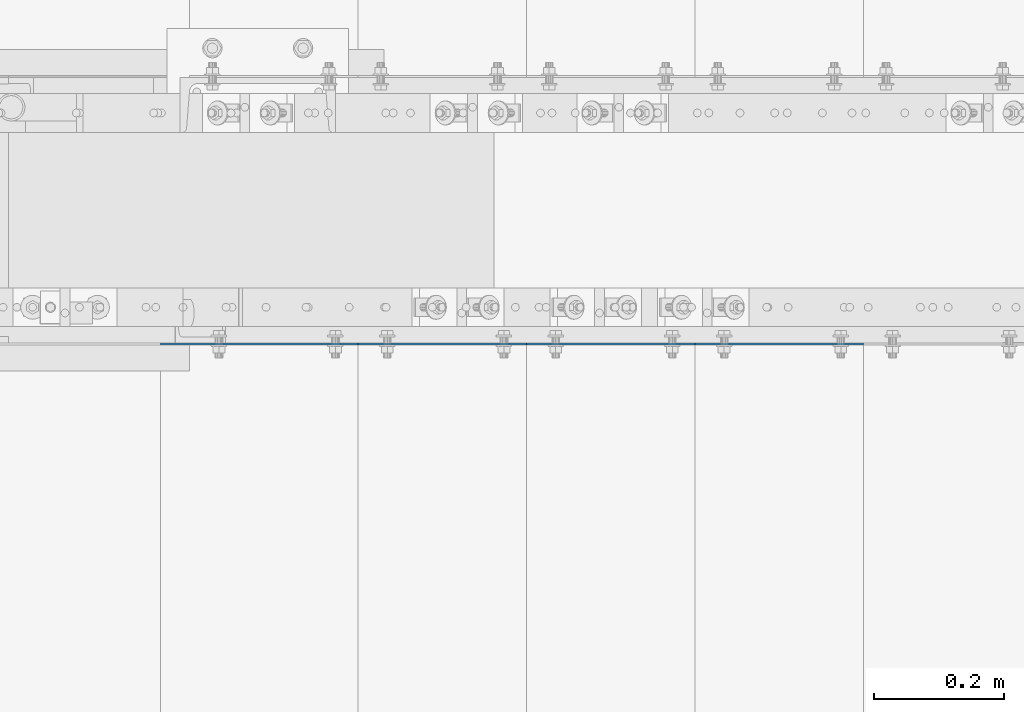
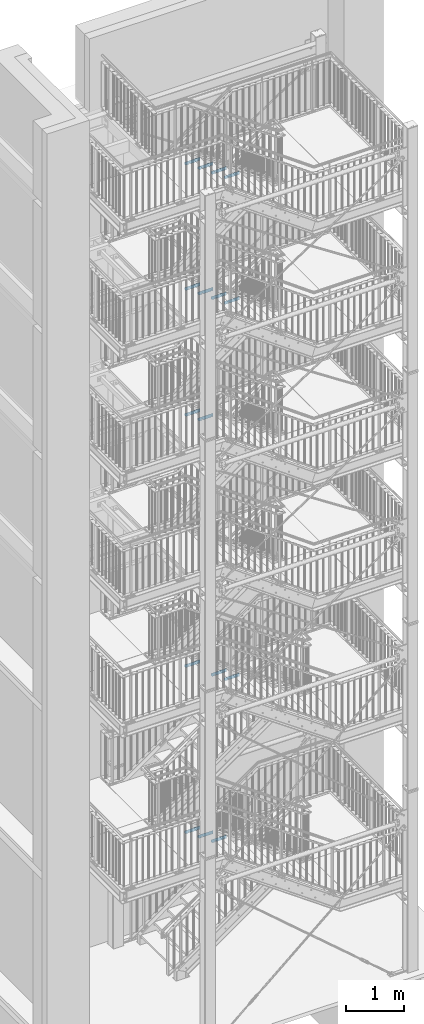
# One storey, part 174 of 831: 16 plates, 32 openings.
"""IFC2X3 building model written with IfcOpenShell, lengths in millimetres."""

from ifc_helpers import new_model, entity, si_unit, converted_unit, point, frame, frame_2d, origin, origin_with_axes, origin_2d_with_axis, place, context, project, spatial, polyline, circle_curve, line_curve, trimmed, segment, composite_curve, circle, outline, extrude, material, layer, layer_set, element, save


model = new_model("IFC2X3")

# Units and contexts
model_context = context("Model", 3, precision=1e-09, world=origin_with_axes())
ifc_project = project(units=[si_unit("LENGTHUNIT", "METRE", prefix="MILLI"), si_unit("AREAUNIT", "SQUARE_METRE"), si_unit("VOLUMEUNIT", "CUBIC_METRE"), converted_unit("PLANEANGLEUNIT", "DEGREE", entity("IfcPlaneAngleMeasure", 0.01745329), si_unit("PLANEANGLEUNIT", "RADIAN"), dimensions=[0, 0, 0, 0, 0, 0, 0])], contexts=[model_context])

# Site, building, storey
site_placement = place(None, origin_with_axes())
site = spatial("IfcSite", under=ifc_project, at=site_placement, Name="Site", CompositionType="ELEMENT")
building_placement = place(site_placement, origin_with_axes())
building = spatial("IfcBuilding", under=site, at=building_placement, Name="Struktur 1", CompositionType="ELEMENT")
storey_placement = place(building_placement, origin_with_axes())
storey = spatial("IfcBuildingStorey", under=building, at=storey_placement, Name="Default Storey", CompositionType="ELEMENT", Elevation=0.0)

# Plate, openings
ifc_material = material(Name="S235JR")
ifc_layer = layer(ifc_material, 3.0)
ifc_layer_set = layer_set([ifc_layer], Name="S235JR")
plate_1_placement = place(None, frame((5756.713402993, 5733.736971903, 12243.7142858), z_axis=(0.0, 1.0, 0.0), x_axis=(0.0, 0.0, -1.0)))
plate_1 = element("IfcPlate", 1, at=plate_1_placement, inside=storey, material=ifc_layer_set, Name="Grate_Step#31", ObjectType="Grate_Step#31", context=model_context, shape_type="SweptSolid", body=[
    extrude(outline(polyline([(0.0, 0.0), (70.0, 0.0), (70.0, 275.0), (40.0, 305.0), (0.0, 305.0), (0.0, 0.0)])), origin_with_axes(), (0.0, 0.0, 1.0), 3.0),
])
opening_1_placement = place(plate_1_placement, frame((55.0, 35.0, -0.5), z_axis=(0.0, 0.0, 1.0), x_axis=(0.0, 1.0, 0.0)))
element("IfcOpeningElement", 2, at=opening_1_placement, cuts=plate_1, ObjectType="Opening", context=model_context, shape_type="SweptSolid", body=[
    extrude(circle(Radius=7.001, at=origin_2d_with_axis()), origin(), (0.0, 0.0, 1.0), 4.0),
])
opening_2_placement = place(plate_1_placement, frame((55.0, 215.0, -0.5), z_axis=(0.0, 0.0, 1.0), x_axis=(0.0, 1.0, 0.0)))
element("IfcOpeningElement", 3, at=opening_2_placement, cuts=plate_1, ObjectType="Opening", context=model_context, shape_type="SweptSolid", body=[
    extrude(outline(composite_curve([segment(trimmed(line_curve((-9.5, -7.001), (1.0, 0.0), 19.0), [point((-9.5, -7.001))], [point((9.5, -7.001))], True, "CARTESIAN"), True, "CONTINUOUS"), segment(trimmed(circle_curve(frame_2d((9.5, 0.0), x_axis=(1.0, 0.0)), 7.001), [point((9.5, -7.001))], [point((9.5, 7.001))], True, "CARTESIAN"), True, "CONTINUOUS"), segment(trimmed(line_curve((9.5, 7.001), (-1.0, 0.0), 19.0), [point((9.5, 7.001))], [point((-9.5, 7.001))], True, "CARTESIAN"), True, "CONTINUOUS"), segment(trimmed(circle_curve(frame_2d((-9.5, 0.0), x_axis=(1.0, 0.0)), 7.001), [point((-9.5, 7.001))], [point((-9.5, -7.001))], True, "CARTESIAN"), True, "CONTINUOUS")], self_intersect=False)), origin(), (0.0, 0.0, 1.0), 4.0),
])

plate_2_placement = place(None, frame((5496.713402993, 5733.736971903, 12431.3571429), z_axis=(0.0, 1.0, 0.0), x_axis=(0.0, 0.0, -1.0)))
plate_2 = element("IfcPlate", 4, at=plate_2_placement, inside=storey, material=ifc_layer_set, Name="Grate_Step#38", ObjectType="Grate_Step#38", context=model_context, shape_type="SweptSolid", body=[
    extrude(outline(polyline([(0.0, 0.0), (70.0, 0.0), (70.0, 275.0), (40.0, 305.0), (0.0, 305.0), (0.0, 0.0)])), origin_with_axes(), (0.0, 0.0, 1.0), 3.0),
])
opening_3_placement = place(plate_2_placement, frame((55.0, 35.0, -0.5), z_axis=(0.0, 0.0, 1.0), x_axis=(0.0, 1.0, 0.0)))
element("IfcOpeningElement", 5, at=opening_3_placement, cuts=plate_2, ObjectType="Opening", context=model_context, shape_type="SweptSolid", body=[
    extrude(circle(Radius=7.001, at=origin_2d_with_axis()), origin(), (0.0, 0.0, 1.0), 4.0),
])
opening_4_placement = place(plate_2_placement, frame((55.0, 215.0, -0.5), z_axis=(0.0, 0.0, 1.0), x_axis=(0.0, 1.0, 0.0)))
element("IfcOpeningElement", 6, at=opening_4_placement, cuts=plate_2, ObjectType="Opening", context=model_context, shape_type="SweptSolid", body=[
    extrude(outline(composite_curve([segment(trimmed(line_curve((-9.5, -7.001), (1.0, 0.0), 19.0), [point((-9.5, -7.001))], [point((9.5, -7.001))], True, "CARTESIAN"), True, "CONTINUOUS"), segment(trimmed(circle_curve(frame_2d((9.5, 0.0), x_axis=(1.0, 0.0)), 7.001), [point((9.5, -7.001))], [point((9.5, 7.001))], True, "CARTESIAN"), True, "CONTINUOUS"), segment(trimmed(line_curve((9.5, 7.001), (-1.0, 0.0), 19.0), [point((9.5, 7.001))], [point((-9.5, 7.001))], True, "CARTESIAN"), True, "CONTINUOUS"), segment(trimmed(circle_curve(frame_2d((-9.5, 0.0), x_axis=(1.0, 0.0)), 7.001), [point((-9.5, 7.001))], [point((-9.5, -7.001))], True, "CARTESIAN"), True, "CONTINUOUS")], self_intersect=False)), origin(), (0.0, 0.0, 1.0), 4.0),
])

plate_3_placement = place(None, frame((6276.713402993, 5733.736971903, 14501.1428572), z_axis=(0.0, 1.0, 0.0), x_axis=(0.0, 0.0, -1.0)))
plate_3 = element("IfcPlate", 7, at=plate_3_placement, inside=storey, material=ifc_layer_set, Name="Grate_Step#17", ObjectType="Grate_Step#17", context=model_context, shape_type="SweptSolid", body=[
    extrude(outline(polyline([(0.0, 0.0), (70.0, 0.0), (70.0, 275.0), (40.0, 305.0), (0.0, 305.0), (0.0, 0.0)])), origin_with_axes(), (0.0, 0.0, 1.0), 3.0),
])
opening_5_placement = place(plate_3_placement, frame((55.0, 215.0, -0.5), z_axis=(0.0, 0.0, 1.0), x_axis=(0.0, 1.0, 0.0)))
element("IfcOpeningElement", 8, at=opening_5_placement, cuts=plate_3, ObjectType="Opening", context=model_context, shape_type="SweptSolid", body=[
    extrude(outline(composite_curve([segment(trimmed(line_curve((-9.5, -7.001), (1.0, 0.0), 19.0), [point((-9.5, -7.001))], [point((9.5, -7.001))], True, "CARTESIAN"), True, "CONTINUOUS"), segment(trimmed(circle_curve(frame_2d((9.5, 0.0), x_axis=(1.0, 0.0)), 7.001), [point((9.5, -7.001))], [point((9.5, 7.001))], True, "CARTESIAN"), True, "CONTINUOUS"), segment(trimmed(line_curve((9.5, 7.001), (-1.0, 0.0), 19.0), [point((9.5, 7.001))], [point((-9.5, 7.001))], True, "CARTESIAN"), True, "CONTINUOUS"), segment(trimmed(circle_curve(frame_2d((-9.5, 0.0), x_axis=(1.0, 0.0)), 7.001), [point((-9.5, 7.001))], [point((-9.5, -7.001))], True, "CARTESIAN"), True, "CONTINUOUS")], self_intersect=False)), origin(), (0.0, 0.0, 1.0), 4.0),
])
opening_6_placement = place(plate_3_placement, frame((55.0, 35.0, -0.5), z_axis=(0.0, 0.0, 1.0), x_axis=(0.0, 1.0, 0.0)))
element("IfcOpeningElement", 9, at=opening_6_placement, cuts=plate_3, ObjectType="Opening", context=model_context, shape_type="SweptSolid", body=[
    extrude(circle(Radius=7.001, at=origin_2d_with_axis()), origin(), (0.0, 0.0, 1.0), 4.0),
])

plate_4_placement = place(None, frame((6016.713402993, 5733.736971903, 14689.3571429), z_axis=(0.0, 1.0, 0.0), x_axis=(0.0, 0.0, -1.0)))
plate_4 = element("IfcPlate", 10, at=plate_4_placement, inside=storey, material=ifc_layer_set, Name="Grate_Step#24", ObjectType="Grate_Step#24", context=model_context, shape_type="SweptSolid", body=[
    extrude(outline(polyline([(0.0, 0.0), (70.0, 0.0), (70.0, 275.0), (40.0, 305.0), (0.0, 305.0), (0.0, 0.0)])), origin_with_axes(), (0.0, 0.0, 1.0), 3.0),
])
opening_7_placement = place(plate_4_placement, frame((55.0, 35.0, -0.5), z_axis=(0.0, 0.0, 1.0), x_axis=(0.0, 1.0, 0.0)))
element("IfcOpeningElement", 11, at=opening_7_placement, cuts=plate_4, ObjectType="Opening", context=model_context, shape_type="SweptSolid", body=[
    extrude(circle(Radius=7.001, at=origin_2d_with_axis()), origin(), (0.0, 0.0, 1.0), 4.0),
])
opening_8_placement = place(plate_4_placement, frame((55.0, 215.0, -0.5), z_axis=(0.0, 0.0, 1.0), x_axis=(0.0, 1.0, 0.0)))
element("IfcOpeningElement", 12, at=opening_8_placement, cuts=plate_4, ObjectType="Opening", context=model_context, shape_type="SweptSolid", body=[
    extrude(outline(composite_curve([segment(trimmed(line_curve((-9.5, -7.001), (1.0, 0.0), 19.0), [point((-9.5, -7.001))], [point((9.5, -7.001))], True, "CARTESIAN"), True, "CONTINUOUS"), segment(trimmed(circle_curve(frame_2d((9.5, 0.0), x_axis=(1.0, 0.0)), 7.001), [point((9.5, -7.001))], [point((9.5, 7.001))], True, "CARTESIAN"), True, "CONTINUOUS"), segment(trimmed(line_curve((9.5, 7.001), (-1.0, 0.0), 19.0), [point((9.5, 7.001))], [point((-9.5, 7.001))], True, "CARTESIAN"), True, "CONTINUOUS"), segment(trimmed(circle_curve(frame_2d((-9.5, 0.0), x_axis=(1.0, 0.0)), 7.001), [point((-9.5, 7.001))], [point((-9.5, -7.001))], True, "CARTESIAN"), True, "CONTINUOUS")], self_intersect=False)), origin(), (0.0, 0.0, 1.0), 4.0),
])

plate_5_placement = place(None, frame((5756.713402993, 5733.736971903, 14877.5714286), z_axis=(0.0, 1.0, 0.0), x_axis=(0.0, 0.0, -1.0)))
plate_5 = element("IfcPlate", 13, at=plate_5_placement, inside=storey, material=ifc_layer_set, Name="Grate_Step#31", ObjectType="Grate_Step#31", context=model_context, shape_type="SweptSolid", body=[
    extrude(outline(polyline([(0.0, 0.0), (70.0, 0.0), (70.0, 275.0), (40.0, 305.0), (0.0, 305.0), (0.0, 0.0)])), origin_with_axes(), (0.0, 0.0, 1.0), 3.0),
])
opening_9_placement = place(plate_5_placement, frame((55.0, 35.0, -0.5), z_axis=(0.0, 0.0, 1.0), x_axis=(0.0, 1.0, 0.0)))
element("IfcOpeningElement", 14, at=opening_9_placement, cuts=plate_5, ObjectType="Opening", context=model_context, shape_type="SweptSolid", body=[
    extrude(circle(Radius=7.001, at=origin_2d_with_axis()), origin(), (0.0, 0.0, 1.0), 4.0),
])
opening_10_placement = place(plate_5_placement, frame((55.0, 215.0, -0.5), z_axis=(0.0, 0.0, 1.0), x_axis=(0.0, 1.0, 0.0)))
element("IfcOpeningElement", 15, at=opening_10_placement, cuts=plate_5, ObjectType="Opening", context=model_context, shape_type="SweptSolid", body=[
    extrude(outline(composite_curve([segment(trimmed(line_curve((-9.5, -7.001), (1.0, 0.0), 19.0), [point((-9.5, -7.001))], [point((9.5, -7.001))], True, "CARTESIAN"), True, "CONTINUOUS"), segment(trimmed(circle_curve(frame_2d((9.5, 0.0), x_axis=(1.0, 0.0)), 7.001), [point((9.5, -7.001))], [point((9.5, 7.001))], True, "CARTESIAN"), True, "CONTINUOUS"), segment(trimmed(line_curve((9.5, 7.001), (-1.0, 0.0), 19.0), [point((9.5, 7.001))], [point((-9.5, 7.001))], True, "CARTESIAN"), True, "CONTINUOUS"), segment(trimmed(circle_curve(frame_2d((-9.5, 0.0), x_axis=(1.0, 0.0)), 7.001), [point((-9.5, 7.001))], [point((-9.5, -7.001))], True, "CARTESIAN"), True, "CONTINUOUS")], self_intersect=False)), origin(), (0.0, 0.0, 1.0), 4.0),
])

plate_6_placement = place(None, frame((5496.713402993, 5733.736971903, 15065.7857143), z_axis=(0.0, 1.0, 0.0), x_axis=(0.0, 0.0, -1.0)))
plate_6 = element("IfcPlate", 16, at=plate_6_placement, inside=storey, material=ifc_layer_set, Name="Grate_Step#38", ObjectType="Grate_Step#38", context=model_context, shape_type="SweptSolid", body=[
    extrude(outline(polyline([(0.0, 0.0), (70.0, 0.0), (70.0, 275.0), (40.0, 305.0), (0.0, 305.0), (0.0, 0.0)])), origin_with_axes(), (0.0, 0.0, 1.0), 3.0),
])
opening_11_placement = place(plate_6_placement, frame((55.0, 215.0, -0.5), z_axis=(0.0, 0.0, 1.0), x_axis=(0.0, 1.0, 0.0)))
element("IfcOpeningElement", 17, at=opening_11_placement, cuts=plate_6, ObjectType="Opening", context=model_context, shape_type="SweptSolid", body=[
    extrude(outline(composite_curve([segment(trimmed(line_curve((-9.5, -7.001), (1.0, 0.0), 19.0), [point((-9.5, -7.001))], [point((9.5, -7.001))], True, "CARTESIAN"), True, "CONTINUOUS"), segment(trimmed(circle_curve(frame_2d((9.5, 0.0), x_axis=(1.0, 0.0)), 7.001), [point((9.5, -7.001))], [point((9.5, 7.001))], True, "CARTESIAN"), True, "CONTINUOUS"), segment(trimmed(line_curve((9.5, 7.001), (-1.0, 0.0), 19.0), [point((9.5, 7.001))], [point((-9.5, 7.001))], True, "CARTESIAN"), True, "CONTINUOUS"), segment(trimmed(circle_curve(frame_2d((-9.5, 0.0), x_axis=(1.0, 0.0)), 7.001), [point((-9.5, 7.001))], [point((-9.5, -7.001))], True, "CARTESIAN"), True, "CONTINUOUS")], self_intersect=False)), origin(), (0.0, 0.0, 1.0), 4.0),
])
opening_12_placement = place(plate_6_placement, frame((55.0, 35.0, -0.5), z_axis=(0.0, 0.0, 1.0), x_axis=(0.0, 1.0, 0.0)))
element("IfcOpeningElement", 18, at=opening_12_placement, cuts=plate_6, ObjectType="Opening", context=model_context, shape_type="SweptSolid", body=[
    extrude(circle(Radius=7.001, at=origin_2d_with_axis()), origin(), (0.0, 0.0, 1.0), 4.0),
])

plate_7_placement = place(None, frame((6276.713402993, 5733.736971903, 17125.4285716), z_axis=(0.0, 1.0, 0.0), x_axis=(0.0, 0.0, -1.0)))
plate_7 = element("IfcPlate", 19, at=plate_7_placement, inside=storey, material=ifc_layer_set, Name="Grate_Step#17", ObjectType="Grate_Step#17", context=model_context, shape_type="SweptSolid", body=[
    extrude(outline(polyline([(0.0, 0.0), (70.0, 0.0), (70.0, 275.0), (40.0, 305.0), (0.0, 305.0), (0.0, 0.0)])), origin_with_axes(), (0.0, 0.0, 1.0), 3.0),
])
opening_13_placement = place(plate_7_placement, frame((55.0, 35.0, -0.5), z_axis=(0.0, 0.0, 1.0), x_axis=(0.0, 1.0, 0.0)))
element("IfcOpeningElement", 20, at=opening_13_placement, cuts=plate_7, ObjectType="Opening", context=model_context, shape_type="SweptSolid", body=[
    extrude(circle(Radius=7.001, at=origin_2d_with_axis()), origin(), (0.0, 0.0, 1.0), 4.0),
])
opening_14_placement = place(plate_7_placement, frame((55.0, 215.0, -0.5), z_axis=(0.0, 0.0, 1.0), x_axis=(0.0, 1.0, 0.0)))
element("IfcOpeningElement", 21, at=opening_14_placement, cuts=plate_7, ObjectType="Opening", context=model_context, shape_type="SweptSolid", body=[
    extrude(outline(composite_curve([segment(trimmed(line_curve((-9.5, -7.001), (1.0, 0.0), 19.0), [point((-9.5, -7.001))], [point((9.5, -7.001))], True, "CARTESIAN"), True, "CONTINUOUS"), segment(trimmed(circle_curve(frame_2d((9.5, 0.0), x_axis=(1.0, 0.0)), 7.001), [point((9.5, -7.001))], [point((9.5, 7.001))], True, "CARTESIAN"), True, "CONTINUOUS"), segment(trimmed(line_curve((9.5, 7.001), (-1.0, 0.0), 19.0), [point((9.5, 7.001))], [point((-9.5, 7.001))], True, "CARTESIAN"), True, "CONTINUOUS"), segment(trimmed(circle_curve(frame_2d((-9.5, 0.0), x_axis=(1.0, 0.0)), 7.001), [point((-9.5, 7.001))], [point((-9.5, -7.001))], True, "CARTESIAN"), True, "CONTINUOUS")], self_intersect=False)), origin(), (0.0, 0.0, 1.0), 4.0),
])

plate_8_placement = place(None, frame((6016.713402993, 5733.736971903, 17312.5714287), z_axis=(0.0, 1.0, 0.0), x_axis=(0.0, 0.0, -1.0)))
plate_8 = element("IfcPlate", 22, at=plate_8_placement, inside=storey, material=ifc_layer_set, Name="Grate_Step#24", ObjectType="Grate_Step#24", context=model_context, shape_type="SweptSolid", body=[
    extrude(outline(polyline([(0.0, 0.0), (70.0, 0.0), (70.0, 275.0), (40.0, 305.0), (0.0, 305.0), (0.0, 0.0)])), origin_with_axes(), (0.0, 0.0, 1.0), 3.0),
])
opening_15_placement = place(plate_8_placement, frame((55.0, 35.0, -0.5), z_axis=(0.0, 0.0, 1.0), x_axis=(0.0, 1.0, 0.0)))
element("IfcOpeningElement", 23, at=opening_15_placement, cuts=plate_8, ObjectType="Opening", context=model_context, shape_type="SweptSolid", body=[
    extrude(circle(Radius=7.001, at=origin_2d_with_axis()), origin(), (0.0, 0.0, 1.0), 4.0),
])
opening_16_placement = place(plate_8_placement, frame((55.0, 215.0, -0.5), z_axis=(0.0, 0.0, 1.0), x_axis=(0.0, 1.0, 0.0)))
element("IfcOpeningElement", 24, at=opening_16_placement, cuts=plate_8, ObjectType="Opening", context=model_context, shape_type="SweptSolid", body=[
    extrude(outline(composite_curve([segment(trimmed(line_curve((-9.5, -7.001), (1.0, 0.0), 19.0), [point((-9.5, -7.001))], [point((9.5, -7.001))], True, "CARTESIAN"), True, "CONTINUOUS"), segment(trimmed(circle_curve(frame_2d((9.5, 0.0), x_axis=(1.0, 0.0)), 7.001), [point((9.5, -7.001))], [point((9.5, 7.001))], True, "CARTESIAN"), True, "CONTINUOUS"), segment(trimmed(line_curve((9.5, 7.001), (-1.0, 0.0), 19.0), [point((9.5, 7.001))], [point((-9.5, 7.001))], True, "CARTESIAN"), True, "CONTINUOUS"), segment(trimmed(circle_curve(frame_2d((-9.5, 0.0), x_axis=(1.0, 0.0)), 7.001), [point((-9.5, 7.001))], [point((-9.5, -7.001))], True, "CARTESIAN"), True, "CONTINUOUS")], self_intersect=False)), origin(), (0.0, 0.0, 1.0), 4.0),
])

plate_9_placement = place(None, frame((5756.713402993, 5733.736971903, 17499.7142858), z_axis=(0.0, 1.0, 0.0), x_axis=(0.0, 0.0, -1.0)))
plate_9 = element("IfcPlate", 25, at=plate_9_placement, inside=storey, material=ifc_layer_set, Name="Grate_Step#31", ObjectType="Grate_Step#31", context=model_context, shape_type="SweptSolid", body=[
    extrude(outline(polyline([(0.0, 0.0), (70.0, 0.0), (70.0, 275.0), (40.0, 305.0), (0.0, 305.0), (0.0, 0.0)])), origin_with_axes(), (0.0, 0.0, 1.0), 3.0),
])
opening_17_placement = place(plate_9_placement, frame((55.0, 35.0, -0.5), z_axis=(0.0, 0.0, 1.0), x_axis=(0.0, 1.0, 0.0)))
element("IfcOpeningElement", 26, at=opening_17_placement, cuts=plate_9, ObjectType="Opening", context=model_context, shape_type="SweptSolid", body=[
    extrude(circle(Radius=7.001, at=origin_2d_with_axis()), origin(), (0.0, 0.0, 1.0), 4.0),
])
opening_18_placement = place(plate_9_placement, frame((55.0, 215.0, -0.5), z_axis=(0.0, 0.0, 1.0), x_axis=(0.0, 1.0, 0.0)))
element("IfcOpeningElement", 27, at=opening_18_placement, cuts=plate_9, ObjectType="Opening", context=model_context, shape_type="SweptSolid", body=[
    extrude(outline(composite_curve([segment(trimmed(line_curve((-9.5, -7.001), (1.0, 0.0), 19.0), [point((-9.5, -7.001))], [point((9.5, -7.001))], True, "CARTESIAN"), True, "CONTINUOUS"), segment(trimmed(circle_curve(frame_2d((9.5, 0.0), x_axis=(1.0, 0.0)), 7.001), [point((9.5, -7.001))], [point((9.5, 7.001))], True, "CARTESIAN"), True, "CONTINUOUS"), segment(trimmed(line_curve((9.5, 7.001), (-1.0, 0.0), 19.0), [point((9.5, 7.001))], [point((-9.5, 7.001))], True, "CARTESIAN"), True, "CONTINUOUS"), segment(trimmed(circle_curve(frame_2d((-9.5, 0.0), x_axis=(1.0, 0.0)), 7.001), [point((-9.5, 7.001))], [point((-9.5, -7.001))], True, "CARTESIAN"), True, "CONTINUOUS")], self_intersect=False)), origin(), (0.0, 0.0, 1.0), 4.0),
])

plate_10_placement = place(None, frame((5496.713402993, 5733.736971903, 17686.8571429), z_axis=(0.0, 1.0, 0.0), x_axis=(0.0, 0.0, -1.0)))
plate_10 = element("IfcPlate", 28, at=plate_10_placement, inside=storey, material=ifc_layer_set, Name="Grate_Step#38", ObjectType="Grate_Step#38", context=model_context, shape_type="SweptSolid", body=[
    extrude(outline(polyline([(0.0, 0.0), (70.0, 0.0), (70.0, 275.0), (40.0, 305.0), (0.0, 305.0), (0.0, 0.0)])), origin_with_axes(), (0.0, 0.0, 1.0), 3.0),
])
opening_19_placement = place(plate_10_placement, frame((55.0, 215.0, -0.5), z_axis=(0.0, 0.0, 1.0), x_axis=(0.0, 1.0, 0.0)))
element("IfcOpeningElement", 29, at=opening_19_placement, cuts=plate_10, ObjectType="Opening", context=model_context, shape_type="SweptSolid", body=[
    extrude(outline(composite_curve([segment(trimmed(line_curve((-9.5, -7.001), (1.0, 0.0), 19.0), [point((-9.5, -7.001))], [point((9.5, -7.001))], True, "CARTESIAN"), True, "CONTINUOUS"), segment(trimmed(circle_curve(frame_2d((9.5, 0.0), x_axis=(1.0, 0.0)), 7.001), [point((9.5, -7.001))], [point((9.5, 7.001))], True, "CARTESIAN"), True, "CONTINUOUS"), segment(trimmed(line_curve((9.5, 7.001), (-1.0, 0.0), 19.0), [point((9.5, 7.001))], [point((-9.5, 7.001))], True, "CARTESIAN"), True, "CONTINUOUS"), segment(trimmed(circle_curve(frame_2d((-9.5, 0.0), x_axis=(1.0, 0.0)), 7.001), [point((-9.5, 7.001))], [point((-9.5, -7.001))], True, "CARTESIAN"), True, "CONTINUOUS")], self_intersect=False)), origin(), (0.0, 0.0, 1.0), 4.0),
])
opening_20_placement = place(plate_10_placement, frame((55.0, 35.0, -0.5), z_axis=(0.0, 0.0, 1.0), x_axis=(0.0, 1.0, 0.0)))
element("IfcOpeningElement", 30, at=opening_20_placement, cuts=plate_10, ObjectType="Opening", context=model_context, shape_type="SweptSolid", body=[
    extrude(circle(Radius=7.001, at=origin_2d_with_axis()), origin(), (0.0, 0.0, 1.0), 4.0),
])

plate_11_placement = place(None, frame((5756.713402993, 5733.736971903, 3516.7894736), z_axis=(0.0, 1.0, 0.0), x_axis=(0.0, 0.0, -1.0)))
plate_11 = element("IfcPlate", 31, at=plate_11_placement, inside=storey, material=ifc_layer_set, Name="Grate_Step#45", ObjectType="Grate_Step#45", context=model_context, shape_type="SweptSolid", body=[
    extrude(outline(polyline([(0.0, 0.0), (70.0, 0.0), (70.0, 275.0), (40.0, 305.0), (0.0, 305.0), (0.0, 0.0)])), origin_with_axes(), (0.0, 0.0, 1.0), 3.0),
])
opening_21_placement = place(plate_11_placement, frame((55.0, 215.0, -0.5), z_axis=(0.0, 0.0, 1.0), x_axis=(0.0, 1.0, 0.0)))
element("IfcOpeningElement", 32, at=opening_21_placement, cuts=plate_11, ObjectType="Opening", context=model_context, shape_type="SweptSolid", body=[
    extrude(outline(composite_curve([segment(trimmed(line_curve((-9.5, -7.001), (1.0, 0.0), 19.0), [point((-9.5, -7.001))], [point((9.5, -7.001))], True, "CARTESIAN"), True, "CONTINUOUS"), segment(trimmed(circle_curve(frame_2d((9.5, 0.0), x_axis=(1.0, 0.0)), 7.001), [point((9.5, -7.001))], [point((9.5, 7.001))], True, "CARTESIAN"), True, "CONTINUOUS"), segment(trimmed(line_curve((9.5, 7.001), (-1.0, 0.0), 19.0), [point((9.5, 7.001))], [point((-9.5, 7.001))], True, "CARTESIAN"), True, "CONTINUOUS"), segment(trimmed(circle_curve(frame_2d((-9.5, 0.0), x_axis=(1.0, 0.0)), 7.001), [point((-9.5, 7.001))], [point((-9.5, -7.001))], True, "CARTESIAN"), True, "CONTINUOUS")], self_intersect=False)), origin(), (0.0, 0.0, 1.0), 4.0),
])
opening_22_placement = place(plate_11_placement, frame((55.0, 35.0, -0.5), z_axis=(0.0, 0.0, 1.0), x_axis=(0.0, 1.0, 0.0)))
element("IfcOpeningElement", 33, at=opening_22_placement, cuts=plate_11, ObjectType="Opening", context=model_context, shape_type="SweptSolid", body=[
    extrude(circle(Radius=7.001, at=origin_2d_with_axis()), origin(), (0.0, 0.0, 1.0), 4.0),
])

plate_12_placement = place(None, frame((6016.713402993, 5733.736971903, 3331.6842104), z_axis=(0.0, 1.0, 0.0), x_axis=(0.0, 0.0, -1.0)))
plate_12 = element("IfcPlate", 34, at=plate_12_placement, inside=storey, material=ifc_layer_set, Name="Grate_Step#38", ObjectType="Grate_Step#38", context=model_context, shape_type="SweptSolid", body=[
    extrude(outline(polyline([(0.0, 0.0), (70.0, 0.0), (70.0, 275.0), (40.0, 305.0), (0.0, 305.0), (0.0, 0.0)])), origin_with_axes(), (0.0, 0.0, 1.0), 3.0),
])
opening_23_placement = place(plate_12_placement, frame((55.0, 215.0, -0.5), z_axis=(0.0, 0.0, 1.0), x_axis=(0.0, 1.0, 0.0)))
element("IfcOpeningElement", 35, at=opening_23_placement, cuts=plate_12, ObjectType="Opening", context=model_context, shape_type="SweptSolid", body=[
    extrude(outline(composite_curve([segment(trimmed(line_curve((-9.5, -7.001), (1.0, 0.0), 19.0), [point((-9.5, -7.001))], [point((9.5, -7.001))], True, "CARTESIAN"), True, "CONTINUOUS"), segment(trimmed(circle_curve(frame_2d((9.5, 0.0), x_axis=(1.0, 0.0)), 7.001), [point((9.5, -7.001))], [point((9.5, 7.001))], True, "CARTESIAN"), True, "CONTINUOUS"), segment(trimmed(line_curve((9.5, 7.001), (-1.0, 0.0), 19.0), [point((9.5, 7.001))], [point((-9.5, 7.001))], True, "CARTESIAN"), True, "CONTINUOUS"), segment(trimmed(circle_curve(frame_2d((-9.5, 0.0), x_axis=(1.0, 0.0)), 7.001), [point((-9.5, 7.001))], [point((-9.5, -7.001))], True, "CARTESIAN"), True, "CONTINUOUS")], self_intersect=False)), origin(), (0.0, 0.0, 1.0), 4.0),
])
opening_24_placement = place(plate_12_placement, frame((55.0, 35.0, -0.5), z_axis=(0.0, 0.0, 1.0), x_axis=(0.0, 1.0, 0.0)))
element("IfcOpeningElement", 36, at=opening_24_placement, cuts=plate_12, ObjectType="Opening", context=model_context, shape_type="SweptSolid", body=[
    extrude(circle(Radius=7.001, at=origin_2d_with_axis()), origin(), (0.0, 0.0, 1.0), 4.0),
])

plate_13_placement = place(None, frame((6016.713402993, 5733.736971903, 6811.6315789), z_axis=(0.0, 1.0, 0.0), x_axis=(0.0, 0.0, -1.0)))
plate_13 = element("IfcPlate", 37, at=plate_13_placement, inside=storey, material=ifc_layer_set, Name="Grate_Step#38", ObjectType="Grate_Step#38", context=model_context, shape_type="SweptSolid", body=[
    extrude(outline(polyline([(0.0, 0.0), (70.0, 0.0), (70.0, 275.0), (40.0, 305.0), (0.0, 305.0), (0.0, 0.0)])), origin_with_axes(), (0.0, 0.0, 1.0), 3.0),
])
opening_25_placement = place(plate_13_placement, frame((55.0, 35.0, -0.5), z_axis=(0.0, 0.0, 1.0), x_axis=(0.0, 1.0, 0.0)))
element("IfcOpeningElement", 38, at=opening_25_placement, cuts=plate_13, ObjectType="Opening", context=model_context, shape_type="SweptSolid", body=[
    extrude(circle(Radius=7.001, at=origin_2d_with_axis()), origin(), (0.0, 0.0, 1.0), 4.0),
])
opening_26_placement = place(plate_13_placement, frame((55.0, 215.0, -0.5), z_axis=(0.0, 0.0, 1.0), x_axis=(0.0, 1.0, 0.0)))
element("IfcOpeningElement", 39, at=opening_26_placement, cuts=plate_13, ObjectType="Opening", context=model_context, shape_type="SweptSolid", body=[
    extrude(outline(composite_curve([segment(trimmed(line_curve((-9.5, -7.001), (1.0, 0.0), 19.0), [point((-9.5, -7.001))], [point((9.5, -7.001))], True, "CARTESIAN"), True, "CONTINUOUS"), segment(trimmed(circle_curve(frame_2d((9.5, 0.0), x_axis=(1.0, 0.0)), 7.001), [point((9.5, -7.001))], [point((9.5, 7.001))], True, "CARTESIAN"), True, "CONTINUOUS"), segment(trimmed(line_curve((9.5, 7.001), (-1.0, 0.0), 19.0), [point((9.5, 7.001))], [point((-9.5, 7.001))], True, "CARTESIAN"), True, "CONTINUOUS"), segment(trimmed(circle_curve(frame_2d((-9.5, 0.0), x_axis=(1.0, 0.0)), 7.001), [point((-9.5, 7.001))], [point((-9.5, -7.001))], True, "CARTESIAN"), True, "CONTINUOUS")], self_intersect=False)), origin(), (0.0, 0.0, 1.0), 4.0),
])

plate_14_placement = place(None, frame((6276.713402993, 5733.736971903, 6628.8421052), z_axis=(0.0, 1.0, 0.0), x_axis=(0.0, 0.0, -1.0)))
plate_14 = element("IfcPlate", 40, at=plate_14_placement, inside=storey, material=ifc_layer_set, Name="Grate_Step#31", ObjectType="Grate_Step#31", context=model_context, shape_type="SweptSolid", body=[
    extrude(outline(polyline([(0.0, 0.0), (70.0, 0.0), (70.0, 275.0), (40.0, 305.0), (0.0, 305.0), (0.0, 0.0)])), origin_with_axes(), (0.0, 0.0, 1.0), 3.0),
])
opening_27_placement = place(plate_14_placement, frame((55.0, 35.0, -0.5), z_axis=(0.0, 0.0, 1.0), x_axis=(0.0, 1.0, 0.0)))
element("IfcOpeningElement", 41, at=opening_27_placement, cuts=plate_14, ObjectType="Opening", context=model_context, shape_type="SweptSolid", body=[
    extrude(circle(Radius=7.001, at=origin_2d_with_axis()), origin(), (0.0, 0.0, 1.0), 4.0),
])
opening_28_placement = place(plate_14_placement, frame((55.0, 215.0, -0.5), z_axis=(0.0, 0.0, 1.0), x_axis=(0.0, 1.0, 0.0)))
element("IfcOpeningElement", 42, at=opening_28_placement, cuts=plate_14, ObjectType="Opening", context=model_context, shape_type="SweptSolid", body=[
    extrude(outline(composite_curve([segment(trimmed(line_curve((-9.5, -7.001), (1.0, 0.0), 19.0), [point((-9.5, -7.001))], [point((9.5, -7.001))], True, "CARTESIAN"), True, "CONTINUOUS"), segment(trimmed(circle_curve(frame_2d((9.5, 0.0), x_axis=(1.0, 0.0)), 7.001), [point((9.5, -7.001))], [point((9.5, 7.001))], True, "CARTESIAN"), True, "CONTINUOUS"), segment(trimmed(line_curve((9.5, 7.001), (-1.0, 0.0), 19.0), [point((9.5, 7.001))], [point((-9.5, 7.001))], True, "CARTESIAN"), True, "CONTINUOUS"), segment(trimmed(circle_curve(frame_2d((-9.5, 0.0), x_axis=(1.0, 0.0)), 7.001), [point((-9.5, 7.001))], [point((-9.5, -7.001))], True, "CARTESIAN"), True, "CONTINUOUS")], self_intersect=False)), origin(), (0.0, 0.0, 1.0), 4.0),
])

plate_15_placement = place(None, frame((5496.713402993, 5733.736971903, 7177.2105263), z_axis=(0.0, 1.0, 0.0), x_axis=(0.0, 0.0, -1.0)))
plate_15 = element("IfcPlate", 43, at=plate_15_placement, inside=storey, material=ifc_layer_set, Name="Grate_Step#52", ObjectType="Grate_Step#52", context=model_context, shape_type="SweptSolid", body=[
    extrude(outline(polyline([(0.0, 0.0), (70.0, 0.0), (70.0, 275.0), (40.0, 305.0), (0.0, 305.0), (0.0, 0.0)])), origin_with_axes(), (0.0, 0.0, 1.0), 3.0),
])
opening_29_placement = place(plate_15_placement, frame((55.0, 215.0, -0.5), z_axis=(0.0, 0.0, 1.0), x_axis=(0.0, 1.0, 0.0)))
element("IfcOpeningElement", 44, at=opening_29_placement, cuts=plate_15, ObjectType="Opening", context=model_context, shape_type="SweptSolid", body=[
    extrude(outline(composite_curve([segment(trimmed(line_curve((-9.5, -7.001), (1.0, 0.0), 19.0), [point((-9.5, -7.001))], [point((9.5, -7.001))], True, "CARTESIAN"), True, "CONTINUOUS"), segment(trimmed(circle_curve(frame_2d((9.5, 0.0), x_axis=(1.0, 0.0)), 7.001), [point((9.5, -7.001))], [point((9.5, 7.001))], True, "CARTESIAN"), True, "CONTINUOUS"), segment(trimmed(line_curve((9.5, 7.001), (-1.0, 0.0), 19.0), [point((9.5, 7.001))], [point((-9.5, 7.001))], True, "CARTESIAN"), True, "CONTINUOUS"), segment(trimmed(circle_curve(frame_2d((-9.5, 0.0), x_axis=(1.0, 0.0)), 7.001), [point((-9.5, 7.001))], [point((-9.5, -7.001))], True, "CARTESIAN"), True, "CONTINUOUS")], self_intersect=False)), origin(), (0.0, 0.0, 1.0), 4.0),
])
opening_30_placement = place(plate_15_placement, frame((55.0, 35.0, -0.5), z_axis=(0.0, 0.0, 1.0), x_axis=(0.0, 1.0, 0.0)))
element("IfcOpeningElement", 45, at=opening_30_placement, cuts=plate_15, ObjectType="Opening", context=model_context, shape_type="SweptSolid", body=[
    extrude(circle(Radius=7.001, at=origin_2d_with_axis()), origin(), (0.0, 0.0, 1.0), 4.0),
])

plate_16_placement = place(None, frame((5496.713402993, 5733.736971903, 3701.8947368), z_axis=(0.0, 1.0, 0.0), x_axis=(0.0, 0.0, -1.0)))
plate_16 = element("IfcPlate", 46, at=plate_16_placement, inside=storey, material=ifc_layer_set, Name="Grate_Step#52", ObjectType="Grate_Step#52", context=model_context, shape_type="SweptSolid", body=[
    extrude(outline(polyline([(0.0, 0.0), (70.0, 0.0), (70.0, 275.0), (40.0, 305.0), (0.0, 305.0), (0.0, 0.0)])), origin_with_axes(), (0.0, 0.0, 1.0), 3.0),
])
opening_31_placement = place(plate_16_placement, frame((55.0, 215.0, -0.5), z_axis=(0.0, 0.0, 1.0), x_axis=(0.0, 1.0, 0.0)))
element("IfcOpeningElement", 47, at=opening_31_placement, cuts=plate_16, ObjectType="Opening", context=model_context, shape_type="SweptSolid", body=[
    extrude(outline(composite_curve([segment(trimmed(line_curve((-9.5, -7.001), (1.0, 0.0), 19.0), [point((-9.5, -7.001))], [point((9.5, -7.001))], True, "CARTESIAN"), True, "CONTINUOUS"), segment(trimmed(circle_curve(frame_2d((9.5, 0.0), x_axis=(1.0, 0.0)), 7.001), [point((9.5, -7.001))], [point((9.5, 7.001))], True, "CARTESIAN"), True, "CONTINUOUS"), segment(trimmed(line_curve((9.5, 7.001), (-1.0, 0.0), 19.0), [point((9.5, 7.001))], [point((-9.5, 7.001))], True, "CARTESIAN"), True, "CONTINUOUS"), segment(trimmed(circle_curve(frame_2d((-9.5, 0.0), x_axis=(1.0, 0.0)), 7.001), [point((-9.5, 7.001))], [point((-9.5, -7.001))], True, "CARTESIAN"), True, "CONTINUOUS")], self_intersect=False)), origin(), (0.0, 0.0, 1.0), 4.0),
])
opening_32_placement = place(plate_16_placement, frame((55.0, 35.0, -0.5), z_axis=(0.0, 0.0, 1.0), x_axis=(0.0, 1.0, 0.0)))
element("IfcOpeningElement", 48, at=opening_32_placement, cuts=plate_16, ObjectType="Opening", context=model_context, shape_type="SweptSolid", body=[
    extrude(circle(Radius=7.001, at=origin_2d_with_axis()), origin(), (0.0, 0.0, 1.0), 4.0),
])

save(model, "model.ifc")
